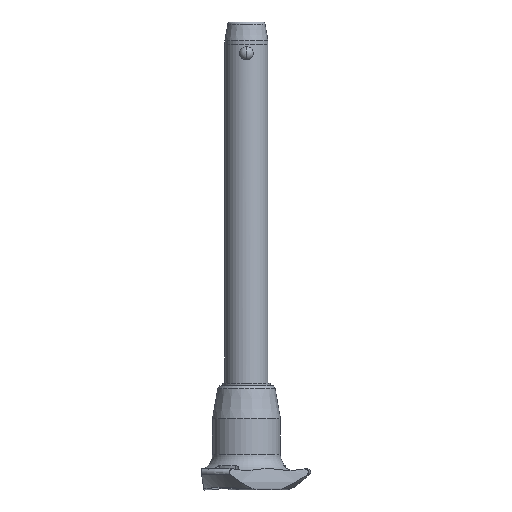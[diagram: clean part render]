
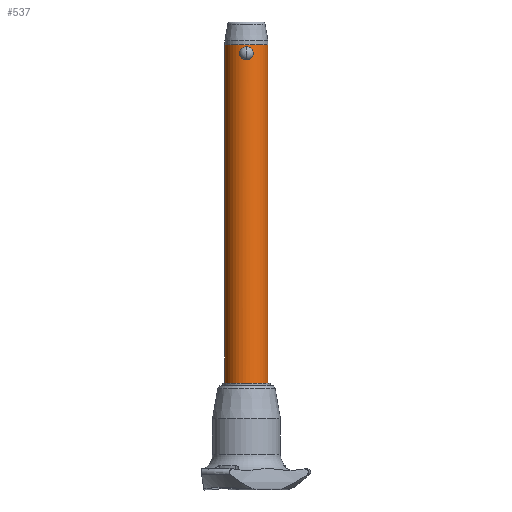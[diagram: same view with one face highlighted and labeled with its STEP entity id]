
A CAD part, front view. The second image highlights one B-rep face of the part: STEP entity #537.
In plain terms, the highlighted cylindrical face has radius 8 mm (diameter 16 mm), a partial arc.
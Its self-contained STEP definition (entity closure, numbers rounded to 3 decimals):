
#6 = FACE_BOUND ( 'NONE', #2069, .T. ) ;
#33 = CARTESIAN_POINT ( 'NONE',  ( -2.276, -7.67, 3.482 ) ) ;
#66 = CARTESIAN_POINT ( 'NONE',  ( -2.459, -7.613, 3.036 ) ) ;
#85 = CARTESIAN_POINT ( 'NONE',  ( -1.254, -7.902, 0.297 ) ) ;
#156 = CARTESIAN_POINT ( 'NONE',  ( 1.105, -7.925, 0.226 ) ) ;
#200 = VERTEX_POINT ( 'NONE', #2268 ) ;
#209 = CARTESIAN_POINT ( 'NONE',  ( 1.529, -7.854, 4.312 ) ) ;
#224 = DIRECTION ( 'NONE',  ( 1., 0., 0. ) ) ;
#240 = CARTESIAN_POINT ( 'NONE',  ( -2.529, -7.59, 2.716 ) ) ;
#255 = CARTESIAN_POINT ( 'NONE',  ( 0., -8., 0. ) ) ;
#324 = LINE ( 'NONE', #1005, #678 ) ;
#383 = CARTESIAN_POINT ( 'NONE',  ( 2.408, -7.629, 1.586 ) ) ;
#409 = CARTESIAN_POINT ( 'NONE',  ( 2.211, -7.69, 3.626 ) ) ;
#453 = CARTESIAN_POINT ( 'NONE',  ( -0.324, -8., 0. ) ) ;
#457 = EDGE_CURVE ( 'NONE', #752, #1888, #940, .T. ) ;
#465 = CARTESIAN_POINT ( 'NONE',  ( -8., 0., -120. ) ) ;
#486 = CARTESIAN_POINT ( 'NONE',  ( -0.652, -7.979, 0.058 ) ) ;
#537 = ADVANCED_FACE ( 'NONE', ( #1132, #6 ), #1814, .T. ) ;
#545 = AXIS2_PLACEMENT_3D ( 'NONE', #2486, #2282, #224 ) ;
#604 = CARTESIAN_POINT ( 'NONE',  ( 0.652, -7.979, 0.058 ) ) ;
#614 = CARTESIAN_POINT ( 'NONE',  ( 2.41, -7.629, 3.184 ) ) ;
#678 = VECTOR ( 'NONE', #2810, 1000. ) ;
#685 = DIRECTION ( 'NONE',  ( 0., 0., 1. ) ) ;
#715 = DIRECTION ( 'NONE',  ( 0., 0., 1. ) ) ;
#743 = CARTESIAN_POINT ( 'NONE',  ( -1.107, -7.924, 4.548 ) ) ;
#752 = VERTEX_POINT ( 'NONE', #465 ) ;
#866 = CARTESIAN_POINT ( 'NONE',  ( 2.194, -7.694, 1.153 ) ) ;
#881 = CARTESIAN_POINT ( 'NONE',  ( 1.66, -7.827, 4.215 ) ) ;
#888 = CARTESIAN_POINT ( 'NONE',  ( -8., 0., -120. ) ) ;
#932 = CARTESIAN_POINT ( 'NONE',  ( -1.53, -7.854, 0.464 ) ) ;
#940 = LINE ( 'NONE', #888, #1523 ) ;
#948 = CARTESIAN_POINT ( 'NONE',  ( -0.645, -7.976, 4.704 ) ) ;
#1005 = CARTESIAN_POINT ( 'NONE',  ( 8., 0., -120. ) ) ;
#1092 = CARTESIAN_POINT ( 'NONE',  ( 1.252, -7.903, 0.296 ) ) ;
#1112 = EDGE_CURVE ( 'NONE', #2072, #1184, #324, .T. ) ;
#1131 = VERTEX_POINT ( 'NONE', #1348 ) ;
#1132 = FACE_OUTER_BOUND ( 'NONE', #2029, .T. ) ;
#1159 = CIRCLE ( 'NONE', #2819, 8. ) ;
#1184 = VERTEX_POINT ( 'NONE', #1367 ) ;
#1193 = CARTESIAN_POINT ( 'NONE',  ( -0.803, -7.961, 4.661 ) ) ;
#1227 = B_SPLINE_CURVE_WITH_KNOTS ( 'NONE', 3,
 ( #1857, #1875, #2042, #948, #1193, #743, #1647, #2704, #2094, #1612, #2553, #2284, #33, #1369, #66, #240, #1432, #2776, #2109, #1842, #1821, #2518, #1629, #2755, #932, #85, #2738, #486, #453, #255 ),
 .UNSPECIFIED., .F., .F.,
 ( 4, 2, 2, 2, 2, 2, 2, 2, 2, 2, 2, 2, 2, 2, 4 ),
 ( 0., 0., 0.001, 0.001, 0.002, 0.002, 0.003, 0.003, 0.004, 0.004, 0.005, 0.006, 0.006, 0.007, 0.008 ),
 .UNSPECIFIED. ) ;
#1241 = EDGE_CURVE ( 'NONE', #2072, #752, #2158, .T. ) ;
#1292 = CARTESIAN_POINT ( 'NONE',  ( 2.46, -7.613, 1.742 ) ) ;
#1322 = CARTESIAN_POINT ( 'NONE',  ( 1.108, -7.924, 4.548 ) ) ;
#1348 = CARTESIAN_POINT ( 'NONE',  ( 0., -8., 4.775 ) ) ;
#1364 = ORIENTED_EDGE ( 'NONE', *, *, #1513, .F. ) ;
#1367 = CARTESIAN_POINT ( 'NONE',  ( 8., 0., 5.6 ) ) ;
#1369 = CARTESIAN_POINT ( 'NONE',  ( -2.408, -7.629, 3.189 ) ) ;
#1392 = ORIENTED_EDGE ( 'NONE', *, *, #457, .F. ) ;
#1432 = CARTESIAN_POINT ( 'NONE',  ( -2.546, -7.584, 2.553 ) ) ;
#1510 = CARTESIAN_POINT ( 'NONE',  ( 0.645, -7.976, 4.704 ) ) ;
#1513 = EDGE_CURVE ( 'NONE', #1888, #1184, #1159, .T. ) ;
#1523 = VECTOR ( 'NONE', #715, 1000. ) ;
#1536 = CARTESIAN_POINT ( 'NONE',  ( 2.547, -7.584, 2.549 ) ) ;
#1549 = CARTESIAN_POINT ( 'NONE',  ( 0.326, -7.995, 4.761 ) ) ;
#1562 = CARTESIAN_POINT ( 'NONE',  ( 2.004, -7.746, 0.894 ) ) ;
#1588 = DIRECTION ( 'NONE',  ( 1., 0., 0. ) ) ;
#1612 = CARTESIAN_POINT ( 'NONE',  ( -1.896, -7.773, 4.001 ) ) ;
#1629 = CARTESIAN_POINT ( 'NONE',  ( -2.016, -7.746, 0.883 ) ) ;
#1631 = AXIS2_PLACEMENT_3D ( 'NONE', #2715, #685, #1588 ) ;
#1647 = CARTESIAN_POINT ( 'NONE',  ( -1.252, -7.903, 4.479 ) ) ;
#1719 = DIRECTION ( 'NONE',  ( 0., 0., 1. ) ) ;
#1738 = CARTESIAN_POINT ( 'NONE',  ( 0., -8., 0. ) ) ;
#1759 = CARTESIAN_POINT ( 'NONE',  ( 2.275, -7.67, 1.291 ) ) ;
#1775 = CARTESIAN_POINT ( 'NONE',  ( 2.461, -7.612, 3.027 ) ) ;
#1788 = CARTESIAN_POINT ( 'NONE',  ( 0.804, -7.961, 4.661 ) ) ;
#1807 = B_SPLINE_CURVE_WITH_KNOTS ( 'NONE', 3,
 ( #1738, #2893, #604, #156, #1092, #2442, #2912, #1995, #1562, #866, #1759, #383, #1292, #2424, #2880, #1536, #2236, #1775, #614, #409, #2675, #881, #209, #2637, #1322, #1788, #1510, #1549, #2453, #2690 ),
 .UNSPECIFIED., .F., .F.,
 ( 4, 2, 2, 2, 2, 2, 2, 2, 2, 2, 2, 2, 2, 2, 4 ),
 ( 0.008, 0.009, 0.009, 0.01, 0.01, 0.011, 0.011, 0.012, 0.012, 0.013, 0.014, 0.014, 0.015, 0.015, 0.016 ),
 .UNSPECIFIED. ) ;
#1814 = CYLINDRICAL_SURFACE ( 'NONE', #1631, 8. ) ;
#1821 = CARTESIAN_POINT ( 'NONE',  ( -2.411, -7.628, 1.592 ) ) ;
#1842 = CARTESIAN_POINT ( 'NONE',  ( -2.461, -7.612, 1.746 ) ) ;
#1857 = CARTESIAN_POINT ( 'NONE',  ( 0., -8., 4.775 ) ) ;
#1875 = CARTESIAN_POINT ( 'NONE',  ( -0.164, -8., 4.775 ) ) ;
#1888 = VERTEX_POINT ( 'NONE', #1966 ) ;
#1966 = CARTESIAN_POINT ( 'NONE',  ( -8., 0., 5.6 ) ) ;
#1995 = CARTESIAN_POINT ( 'NONE',  ( 1.894, -7.773, 0.773 ) ) ;
#2018 = EDGE_CURVE ( 'NONE', #200, #1131, #1807, .T. ) ;
#2029 = EDGE_LOOP ( 'NONE', ( #1392, #2761, #2243, #1364 ) ) ;
#2042 = CARTESIAN_POINT ( 'NONE',  ( -0.326, -7.995, 4.761 ) ) ;
#2069 = EDGE_LOOP ( 'NONE', ( #2316, #2560 ) ) ;
#2072 = VERTEX_POINT ( 'NONE', #2193 ) ;
#2094 = CARTESIAN_POINT ( 'NONE',  ( -1.658, -7.827, 4.216 ) ) ;
#2109 = CARTESIAN_POINT ( 'NONE',  ( -2.529, -7.59, 2.064 ) ) ;
#2158 = CIRCLE ( 'NONE', #545, 8. ) ;
#2175 = EDGE_CURVE ( 'NONE', #1131, #200, #1227, .T. ) ;
#2193 = CARTESIAN_POINT ( 'NONE',  ( 8., 0., -120. ) ) ;
#2236 = CARTESIAN_POINT ( 'NONE',  ( 2.529, -7.59, 2.71 ) ) ;
#2243 = ORIENTED_EDGE ( 'NONE', *, *, #1112, .T. ) ;
#2268 = CARTESIAN_POINT ( 'NONE',  ( 0., -8., 0. ) ) ;
#2282 = DIRECTION ( 'NONE',  ( 0., 0., -1. ) ) ;
#2284 = CARTESIAN_POINT ( 'NONE',  ( -2.193, -7.694, 3.623 ) ) ;
#2316 = ORIENTED_EDGE ( 'NONE', *, *, #2175, .F. ) ;
#2387 = CARTESIAN_POINT ( 'NONE',  ( 0., 0., 5.6 ) ) ;
#2424 = CARTESIAN_POINT ( 'NONE',  ( 2.528, -7.59, 2.058 ) ) ;
#2442 = CARTESIAN_POINT ( 'NONE',  ( 1.529, -7.854, 0.463 ) ) ;
#2453 = CARTESIAN_POINT ( 'NONE',  ( 0.164, -8., 4.775 ) ) ;
#2486 = CARTESIAN_POINT ( 'NONE',  ( 0., 0., -120. ) ) ;
#2518 = CARTESIAN_POINT ( 'NONE',  ( -2.211, -7.69, 1.148 ) ) ;
#2553 = CARTESIAN_POINT ( 'NONE',  ( -2.003, -7.746, 3.882 ) ) ;
#2560 = ORIENTED_EDGE ( 'NONE', *, *, #2018, .F. ) ;
#2637 = CARTESIAN_POINT ( 'NONE',  ( 1.253, -7.903, 4.478 ) ) ;
#2675 = CARTESIAN_POINT ( 'NONE',  ( 2.016, -7.746, 3.891 ) ) ;
#2690 = CARTESIAN_POINT ( 'NONE',  ( 0., -8., 4.775 ) ) ;
#2704 = CARTESIAN_POINT ( 'NONE',  ( -1.527, -7.854, 4.313 ) ) ;
#2715 = CARTESIAN_POINT ( 'NONE',  ( 0., 0., -120. ) ) ;
#2738 = CARTESIAN_POINT ( 'NONE',  ( -1.106, -7.925, 0.226 ) ) ;
#2755 = CARTESIAN_POINT ( 'NONE',  ( -1.659, -7.827, 0.559 ) ) ;
#2761 = ORIENTED_EDGE ( 'NONE', *, *, #1241, .F. ) ;
#2776 = CARTESIAN_POINT ( 'NONE',  ( -2.547, -7.584, 2.229 ) ) ;
#2791 = DIRECTION ( 'NONE',  ( 1., 0., 0. ) ) ;
#2810 = DIRECTION ( 'NONE',  ( 0., 0., 1. ) ) ;
#2819 = AXIS2_PLACEMENT_3D ( 'NONE', #2387, #1719, #2791 ) ;
#2880 = CARTESIAN_POINT ( 'NONE',  ( 2.546, -7.584, 2.22 ) ) ;
#2893 = CARTESIAN_POINT ( 'NONE',  ( 0.324, -8., 0. ) ) ;
#2912 = CARTESIAN_POINT ( 'NONE',  ( 1.657, -7.827, 0.558 ) ) ;
